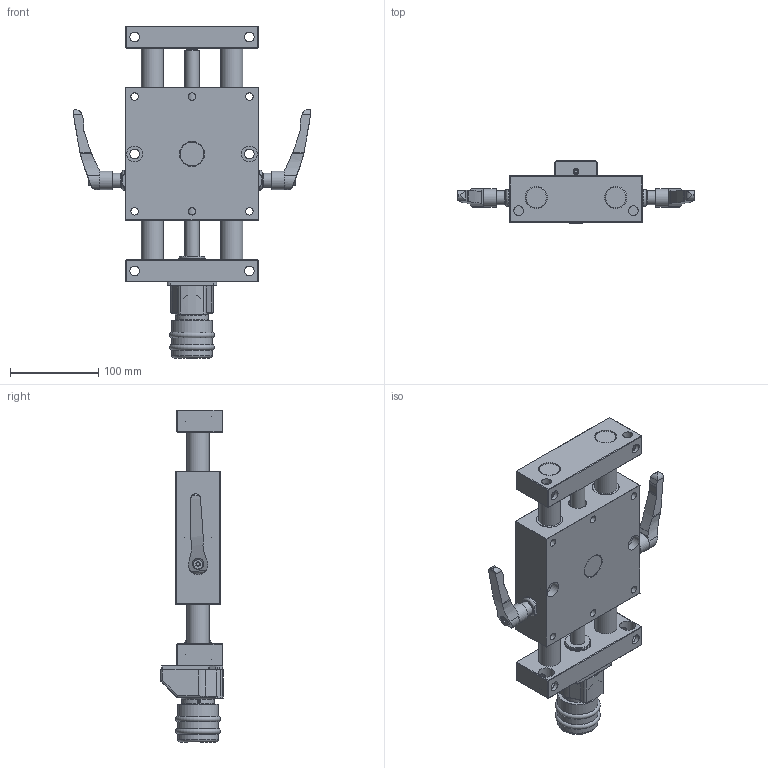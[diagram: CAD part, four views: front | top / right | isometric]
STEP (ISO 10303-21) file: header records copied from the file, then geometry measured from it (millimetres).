
FILE_DESCRIPTION (( 'STEP AP214' ), '1' );
FILE_NAME ('PT8625-PAE-2KH-Positioniertisch.STEP', '2023-11-20T14:39:36', ( '' ), ( '' ), 'SwSTEP 2.0', 'SolidWorks 2019', '' );
FILE_SCHEMA (( 'AUTOMOTIVE_DESIGN' ));
Length unit declared in the file: millimetre
Products named in the file (4): PT25-100-02-Schlitten-komplett-2KH; PAE25-PTHT-000-Elektronischer-Positionsanzeiger-Komplett_n_Standard; PT8625-PAE-2KH-Positioniertisch; PT8625-000-01-Festteil-PA(E)_n_Standard
Assembly tree (3 placements, depth 2):
  PT8625-PAE-2KH-Positioniertisch
    PT8625-000-01-Festteil-PA(E)_n_Standard
    PAE25-PTHT-000-Elektronischer-Positionsanzeiger-Komplett_n_Standard
    PT25-100-02-Schlitten-komplett-2KH
Bounding box: 269.61 x 71.23 x 376.26 mm (x, y, z)
Volume: 1750820.6 mm3; surface area: 283512.2 mm2
Topology: 3 solids, 10 shells, 1024 faces, 2552 edges, 1662 vertices
Faces by surface type: plane 657, cylinder 275, cone 60, torus 22, sphere 10
Full cylindrical faces by diameter (mm): 1.968 x1, 2.496 x1, 2.5 x2, 3 x1, 3.2 x2, 4 x1, 5 x2, 6 x1, 6.5 x2, 7 x2, 8.5 x8, 10 x2, 10.6 x4, 11 x14, 13.7 x2, 14 x4, 14.5 x4, 16 x6, 16.5 x1, 16.6 x2, 18 x14, 18.5 x2, 19.5 x1, 19.9 x1, 20 x2, 21 x2, 23 x2, 24 x1, 24.4 x4, 24.8 x2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
Entity records: 31064 total; most frequent: CARTESIAN_POINT 7532, DIRECTION 4687, ORIENTED_EDGE 4486, EDGE_CURVE 2243, VERTEX_POINT 1567, LINE 1563, VECTOR 1563, AXIS2_PLACEMENT_3D 1562
